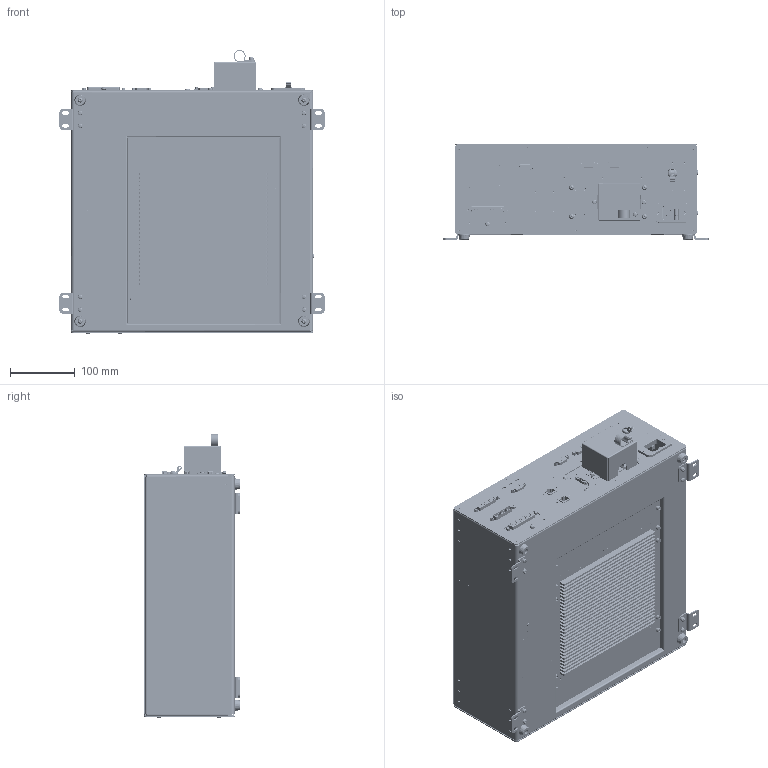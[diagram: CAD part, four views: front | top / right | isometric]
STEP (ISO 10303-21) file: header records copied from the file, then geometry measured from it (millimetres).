
FILE_DESCRIPTION (( 'STEP AP203' ), '1' );
FILE_NAME ('RC40B-DEX ¿ØÖÆ¹ñ ºá°æ.STEP', '2022-07-26T07:42:55', ( '' ), ( '' ), 'SwSTEP 2.0', 'SolidWorks 2021', '' );
FILE_SCHEMA (( 'CONFIG_CONTROL_DESIGN' ));
Length unit declared in the file: millimetre
Products named in the file (42): __________ NYDM3100-20P-P-20P.STEP; RC40A-DEX-02-02__________B.STEP; DS-UNC-2P-3.STEP; ________.STEP; ________________ M4__8.STEP; RC60A-DAX-01-12 __________.STEP; ______________ M4__10.STEP; RC60A-DAX-01-01 ____.STEP; R______ CC-4.STEP; RC60A-DAX-01-05 IO________.STEP; ________-1.STEP; RC60A-DAX-01-06 __________.STEP; ________________ M4__6.STEP; ______ BB2-B0-42-616-12B-E.STEP; ____________________ M4__12.STEP; GB__T6170-20001__________A____B__M4.STEP; ______________ M2.5__6.STEP; RC60A-DAX-01-04 ______.STEP; RC60-DFX-01-01 ______.STEP; ____________________ M4__8.STEP; GB__T6170-20001__________A____B__M3.STEP; ________ 18__15__8.STEP; DS-UNC-2P-0.STEP; RC40A-DAX ________.STEP; DM-9SS(MISUMI).STEP; ____________ MC20FEL5.STEP; DS-UNC-2P.STEP; CDRD-4A05-A01.STEP; ____________ LH-JK.STEP; RC40B-DEX 諷秶嶄.STEP; E7.820.003A.STEP; DS-UNC-2P-2.STEP; ______________ M3__6.STEP; RC40A-DAX-01-03 ________.STEP; RC60A-DAX-01-10 ________.STEP; RC40B-DEX 諷秶嶄 筵唳; RC40A-DAX-01-04 ____________.STEP; RC40-01-20 ________________.STEP; RC40A-DAX-01-01 ________.STEP; RC40A-DEX-02-01__________A.STEP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
Assembly tree (157 placements, depth 4):
  RC40B-DEX 諷秶嶄 筵唳
    RC40B-DEX 諷秶嶄.STEP
      RC40A-DAX ________.STEP
        ____________ LH-JK.STEP
        ______ BB2-B0-42-616-12B-E.STEP
        E_0100.2026_03.STEP
        DM-9SS(MISUMI).STEP  x2
        DS-UNC-2P.STEP
        DS-UNC-2P-0.STEP
        E7.820.003A.STEP
        RC60A-DAX-01-05 IO________.STEP
        ________.STEP
        RC40A-DAX-01-01 ________.STEP
        ____________ MC20FEL5.STEP
        __________ NYDM3100-20P-P-20P.STEP
        RC60-DFX-01-01 ______.STEP
        ________-1.STEP
        DS-UNC-2P-2.STEP
        DS-UNC-2P-3.STEP
      RC60A-DAX-01-01 ____.STEP
      RC60A-DAX-01-02 ______.STEP
      RC60A-DAX-01-06 __________.STEP
      RC60A-DAX-01-04 ______.STEP
      ____________________ M4__12.STEP  x3
      ____________________ M4__8.STEP  x35
      GB__T6170-20001__________A____B__M4.STEP  x3
      ______________ M4__10.STEP  x3
      RC40A-DAX-01-03 ________.STEP
      RC40-01-20 ________________.STEP
      ______________ M2.5__6.STEP  x10
      GB__T6170-20001__________A____B__M3.STEP  x2
      ________ 18__15__8.STEP  x4
      RC60A-DAX-01-10 ________.STEP  x4
      RC40A-DAX-01-04 ____________.STEP
      ________________ M4__8.STEP  x4
      ______________ M3__6.STEP  x45
      RC60A-DAX-01-12 __________.STEP
      ________________ M4__6.STEP  x12
      R______ CC-4.STEP  x2
      CDRD-4A05-A01.STEP
      RC40A-DEX-02-01__________A.STEP
      RC40A-DEX-02-02__________B.STEP
Bounding box: 411 x 148 x 440.4 mm (x, y, z)
Volume: 1163528.3 mm3; surface area: 1317015.5 mm2
Topology: 194 solids, 239 shells, 18929 faces, 50438 edges, 32481 vertices
Faces by surface type: plane 12874, cylinder 3098, cone 1512, torus 841, bspline 486, sphere 118
Entity records: 514769 total; most frequent: CARTESIAN_POINT 117215, ORIENTED_EDGE 82284, DIRECTION 74165, EDGE_CURVE 41180, VECTOR 34311, LINE 34311, VERTEX_POINT 26989, EDGE_LOOP 19950
